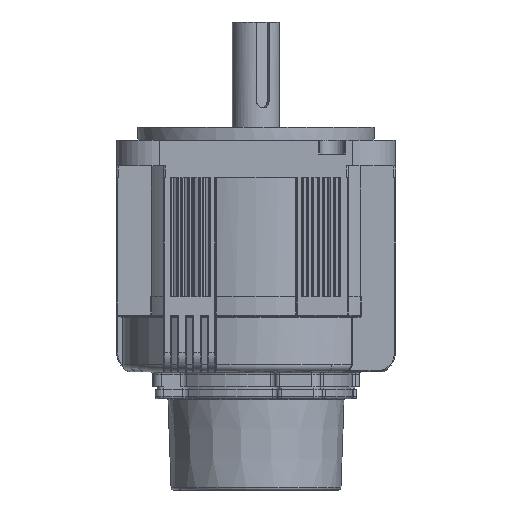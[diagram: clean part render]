
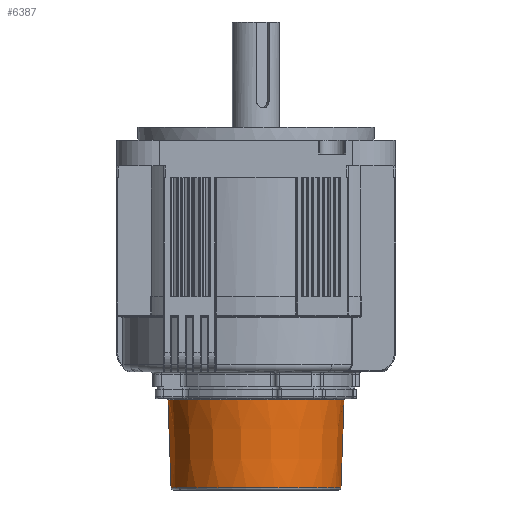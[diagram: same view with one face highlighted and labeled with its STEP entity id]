
A CAD part, front view. The second image highlights one B-rep face of the part: STEP entity #6387.
In plain terms, the highlighted conical face has half-angle 2 degrees and reference radius 41 mm.
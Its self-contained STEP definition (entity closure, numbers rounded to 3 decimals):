
#4257=CARTESIAN_POINT('Vertex',(7.965,-1.472,-63.486)) ;
#4260=CARTESIAN_POINT('Axis2P3D Location',(-31.602,-1.472,-63.486)) ;
#4264=CARTESIAN_POINT('Vertex',(-67.285,-18.568,-63.486)) ;
#4298=CARTESIAN_POINT('Axis2P3D Location',(-31.602,-1.472,-63.486)) ;
#4302=CARTESIAN_POINT('Vertex',(-71.169,-1.472,-63.486)) ;
#6339=CARTESIAN_POINT('Vertex',(9.399,-1.472,-22.434)) ;
#6342=CARTESIAN_POINT('Line Origine',(17438.647,-1.472,499085.919)) ;
#6355=CARTESIAN_POINT('Axis2P3D Location',(-31.602,-1.472,-22.451)) ;
#6360=CARTESIAN_POINT('Line Origine',(-17501.85,-1.472,499085.919)) ;
#6364=CARTESIAN_POINT('Vertex',(-72.602,-1.472,-22.434)) ;
#6367=CARTESIAN_POINT('Axis2P3D Location',(-31.602,-1.472,-22.434)) ;
#6371=CARTESIAN_POINT('Vertex',(9.237,-5.113,-22.434)) ;
#6374=CARTESIAN_POINT('Axis2P3D Location',(-31.602,-1.472,-22.434)) ;
#4261=DIRECTION('Axis2P3D Direction',(0.,0.,-1.)) ;
#4299=DIRECTION('Axis2P3D Direction',(0.,0.,-1.)) ;
#6343=DIRECTION('Vector Direction',(0.035,0.,0.999)) ;
#6356=DIRECTION('Axis2P3D Direction',(0.,0.,1.)) ;
#6357=DIRECTION('Axis2P3D XDirection',(-1.,0.,0.)) ;
#6361=DIRECTION('Vector Direction',(-0.035,0.,0.999)) ;
#6368=DIRECTION('Axis2P3D Direction',(0.,0.,1.)) ;
#6375=DIRECTION('Axis2P3D Direction',(0.,0.,1.)) ;
#4262=AXIS2_PLACEMENT_3D('Circle Axis2P3D',#4260,#4261,$) ;
#4300=AXIS2_PLACEMENT_3D('Circle Axis2P3D',#4298,#4299,$) ;
#6358=AXIS2_PLACEMENT_3D('Cone Axis2P3D',#6355,#6356,#6357) ;
#6369=AXIS2_PLACEMENT_3D('Circle Axis2P3D',#6367,#6368,$) ;
#6376=AXIS2_PLACEMENT_3D('Circle Axis2P3D',#6374,#6375,$) ;
#6380=ORIENTED_EDGE('',*,*,#6366,.F.) ;
#6381=ORIENTED_EDGE('',*,*,#4304,.F.) ;
#6382=ORIENTED_EDGE('',*,*,#4266,.F.) ;
#6383=ORIENTED_EDGE('',*,*,#6346,.T.) ;
#6384=ORIENTED_EDGE('',*,*,#6373,.F.) ;
#6385=ORIENTED_EDGE('',*,*,#6378,.F.) ;
#6344=VECTOR('Line Direction',#6343,1.) ;
#6362=VECTOR('Line Direction',#6361,1.) ;
#6387=ADVANCED_FACE('Brep With Voids',(#6386),#6359,.T.) ;
#4263=CIRCLE('generated circle',#4262,39.567) ;
#4301=CIRCLE('generated circle',#4300,39.567) ;
#6370=CIRCLE('generated circle',#6369,41.001) ;
#6377=CIRCLE('generated circle',#6376,41.001) ;
#6359=CONICAL_SURFACE('Cone',#6358,41.,0.035) ;
#4266=EDGE_CURVE('',#4258,#4265,#4263,.T.) ;
#4304=EDGE_CURVE('',#4265,#4303,#4301,.T.) ;
#6346=EDGE_CURVE('',#4258,#6340,#6345,.T.) ;
#6366=EDGE_CURVE('',#4303,#6365,#6363,.T.) ;
#6373=EDGE_CURVE('',#6372,#6340,#6370,.T.) ;
#6378=EDGE_CURVE('',#6365,#6372,#6377,.T.) ;
#6379=EDGE_LOOP('',(#6380,#6381,#6382,#6383,#6384,#6385)) ;
#6386=FACE_OUTER_BOUND('',#6379,.T.) ;
#6345=LINE('Line',#6342,#6344) ;
#6363=LINE('Line',#6360,#6362) ;
#4258=VERTEX_POINT('',#4257) ;
#4265=VERTEX_POINT('',#4264) ;
#4303=VERTEX_POINT('',#4302) ;
#6340=VERTEX_POINT('',#6339) ;
#6365=VERTEX_POINT('',#6364) ;
#6372=VERTEX_POINT('',#6371) ;
